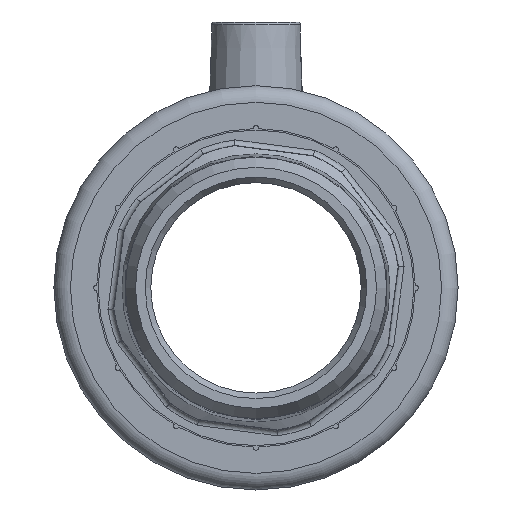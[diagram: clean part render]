
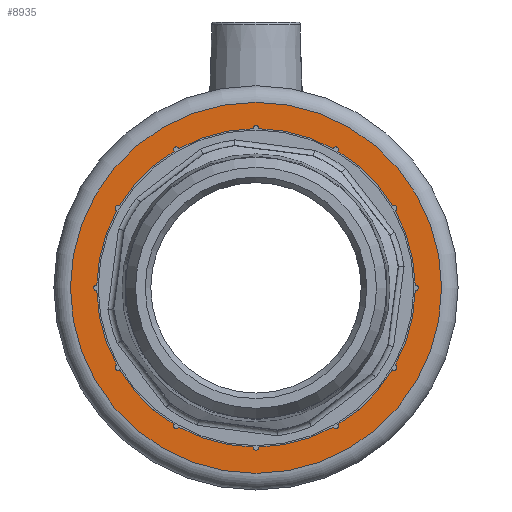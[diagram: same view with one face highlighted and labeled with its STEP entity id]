
A CAD part, left-side view. The second image highlights one B-rep face of the part: STEP entity #8935.
In plain terms, the highlighted planar face has unit normal (-1, 0, 0).
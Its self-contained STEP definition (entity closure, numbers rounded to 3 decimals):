
#917=PLANE('',#11525);
#1274=CIRCLE('',#11078,0.5);
#1277=CIRCLE('',#11085,0.5);
#1281=CIRCLE('',#11095,28.752);
#1282=CIRCLE('',#11105,0.5);
#1286=CIRCLE('',#11114,28.752);
#1288=CIRCLE('',#11123,0.5);
#1292=CIRCLE('',#11132,28.752);
#1293=CIRCLE('',#11142,0.5);
#1297=CIRCLE('',#11151,28.752);
#1299=CIRCLE('',#11160,0.5);
#1302=CIRCLE('',#11167,0.5);
#1305=CIRCLE('',#11174,0.5);
#1310=CIRCLE('',#11185,28.752);
#1313=CIRCLE('',#11196,28.752);
#1314=CIRCLE('',#11206,0.5);
#1318=CIRCLE('',#11215,28.752);
#1320=CIRCLE('',#11224,0.5);
#1324=CIRCLE('',#11233,28.752);
#1326=CIRCLE('',#11245,28.752);
#1327=CIRCLE('',#11247,0.5);
#1331=CIRCLE('',#11271,0.5);
#1335=CIRCLE('',#11280,28.752);
#1337=CIRCLE('',#11292,28.752);
#1339=CIRCLE('',#11296,28.752);
#1426=CIRCLE('',#11524,33.5);
#3023=ORIENTED_EDGE('',*,*,#4479,.F.);
#3024=ORIENTED_EDGE('',*,*,#4458,.F.);
#3025=ORIENTED_EDGE('',*,*,#4743,.F.);
#3026=ORIENTED_EDGE('',*,*,#4711,.F.);
#3027=ORIENTED_EDGE('',*,*,#4725,.F.);
#3028=ORIENTED_EDGE('',*,*,#4563,.F.);
#3029=ORIENTED_EDGE('',*,*,#4677,.F.);
#3030=ORIENTED_EDGE('',*,*,#4645,.F.);
#3031=ORIENTED_EDGE('',*,*,#4659,.F.);
#3032=ORIENTED_EDGE('',*,*,#4620,.F.);
#3033=ORIENTED_EDGE('',*,*,#4634,.F.);
#3034=ORIENTED_EDGE('',*,*,#4569,.F.);
#3035=ORIENTED_EDGE('',*,*,#4610,.F.);
#3036=ORIENTED_EDGE('',*,*,#4575,.F.);
#3037=ORIENTED_EDGE('',*,*,#4591,.F.);
#3038=ORIENTED_EDGE('',*,*,#4678,.F.);
#3039=ORIENTED_EDGE('',*,*,#4752,.F.);
#3040=ORIENTED_EDGE('',*,*,#4538,.F.);
#3041=ORIENTED_EDGE('',*,*,#4552,.F.);
#3042=ORIENTED_EDGE('',*,*,#4514,.F.);
#3043=ORIENTED_EDGE('',*,*,#4528,.F.);
#3044=ORIENTED_EDGE('',*,*,#4489,.F.);
#3045=ORIENTED_EDGE('',*,*,#4503,.F.);
#3046=ORIENTED_EDGE('',*,*,#4464,.F.);
#3047=ORIENTED_EDGE('',*,*,#5114,.T.);
#4458=EDGE_CURVE('',#5842,#5843,#1274,.T.);
#4464=EDGE_CURVE('',#5848,#5849,#1277,.T.);
#4479=EDGE_CURVE('',#5843,#5848,#1281,.T.);
#4489=EDGE_CURVE('',#5868,#5869,#1282,.T.);
#4503=EDGE_CURVE('',#5849,#5868,#1286,.T.);
#4514=EDGE_CURVE('',#5888,#5889,#1288,.T.);
#4528=EDGE_CURVE('',#5869,#5888,#1292,.T.);
#4538=EDGE_CURVE('',#5907,#5908,#1293,.T.);
#4552=EDGE_CURVE('',#5889,#5907,#1297,.T.);
#4563=EDGE_CURVE('',#5927,#5928,#1299,.T.);
#4569=EDGE_CURVE('',#5933,#5934,#1302,.T.);
#4575=EDGE_CURVE('',#5939,#5940,#1305,.T.);
#4591=EDGE_CURVE('',#5954,#5939,#1310,.T.);
#4610=EDGE_CURVE('',#5940,#5933,#1313,.T.);
#4620=EDGE_CURVE('',#5975,#5976,#1314,.T.);
#4634=EDGE_CURVE('',#5934,#5975,#1318,.T.);
#4645=EDGE_CURVE('',#5995,#5996,#1320,.T.);
#4659=EDGE_CURVE('',#5976,#5995,#1324,.T.);
#4677=EDGE_CURVE('',#5996,#5927,#1326,.T.);
#4678=EDGE_CURVE('',#6021,#5954,#1327,.T.);
#4711=EDGE_CURVE('',#6042,#6043,#1331,.T.);
#4725=EDGE_CURVE('',#5928,#6042,#1335,.T.);
#4743=EDGE_CURVE('',#6043,#5842,#1337,.T.);
#4752=EDGE_CURVE('',#5908,#6021,#1339,.T.);
#5114=EDGE_CURVE('',#6270,#6270,#1426,.T.);
#5842=VERTEX_POINT('',#14558);
#5843=VERTEX_POINT('',#14559);
#5848=VERTEX_POINT('',#14571);
#5849=VERTEX_POINT('',#14572);
#5868=VERTEX_POINT('',#14643);
#5869=VERTEX_POINT('',#14644);
#5888=VERTEX_POINT('',#14721);
#5889=VERTEX_POINT('',#14722);
#5907=VERTEX_POINT('',#14791);
#5908=VERTEX_POINT('',#14792);
#5927=VERTEX_POINT('',#14869);
#5928=VERTEX_POINT('',#14870);
#5933=VERTEX_POINT('',#14882);
#5934=VERTEX_POINT('',#14883);
#5939=VERTEX_POINT('',#14895);
#5940=VERTEX_POINT('',#14896);
#5954=VERTEX_POINT('',#14942);
#5975=VERTEX_POINT('',#15035);
#5976=VERTEX_POINT('',#15036);
#5995=VERTEX_POINT('',#15113);
#5996=VERTEX_POINT('',#15114);
#6021=VERTEX_POINT('',#15216);
#6042=VERTEX_POINT('',#15334);
#6043=VERTEX_POINT('',#15335);
#6270=VERTEX_POINT('',#18351);
#7660=EDGE_LOOP('',(#3023,#3024,#3025,#3026,#3027,#3028,#3029,#3030,#3031,
#3032,#3033,#3034,#3035,#3036,#3037,#3038,#3039,#3040,#3041,#3042,#3043,
#3044,#3045,#3046));
#7661=EDGE_LOOP('',(#3047));
#8286=FACE_BOUND('',#7660,.T.);
#8287=FACE_BOUND('',#7661,.T.);
#8935=ADVANCED_FACE('',(#8286,#8287),#917,.T.);
#11078=AXIS2_PLACEMENT_3D('',#14557,#12216,#12217);
#11085=AXIS2_PLACEMENT_3D('',#14570,#12230,#12231);
#11095=AXIS2_PLACEMENT_3D('',#14616,#12252,#12253);
#11105=AXIS2_PLACEMENT_3D('',#14642,#12274,#12275);
#11114=AXIS2_PLACEMENT_3D('',#14686,#12294,#12295);
#11123=AXIS2_PLACEMENT_3D('',#14720,#12314,#12315);
#11132=AXIS2_PLACEMENT_3D('',#14764,#12334,#12335);
#11142=AXIS2_PLACEMENT_3D('',#14790,#12356,#12357);
#11151=AXIS2_PLACEMENT_3D('',#14834,#12376,#12377);
#11160=AXIS2_PLACEMENT_3D('',#14868,#12396,#12397);
#11167=AXIS2_PLACEMENT_3D('',#14881,#12410,#12411);
#11174=AXIS2_PLACEMENT_3D('',#14894,#12424,#12425);
#11185=AXIS2_PLACEMENT_3D('',#14943,#12448,#12449);
#11196=AXIS2_PLACEMENT_3D('',#15008,#12474,#12475);
#11206=AXIS2_PLACEMENT_3D('',#15034,#12496,#12497);
#11215=AXIS2_PLACEMENT_3D('',#15078,#12516,#12517);
#11224=AXIS2_PLACEMENT_3D('',#15112,#12536,#12537);
#11233=AXIS2_PLACEMENT_3D('',#15156,#12556,#12557);
#11245=AXIS2_PLACEMENT_3D('',#15213,#12584,#12585);
#11247=AXIS2_PLACEMENT_3D('',#15215,#12588,#12589);
#11271=AXIS2_PLACEMENT_3D('',#15333,#12643,#12644);
#11280=AXIS2_PLACEMENT_3D('',#15377,#12663,#12664);
#11292=AXIS2_PLACEMENT_3D('',#15434,#12691,#12692);
#11296=AXIS2_PLACEMENT_3D('',#15467,#12701,#12702);
#11524=AXIS2_PLACEMENT_3D('',#18350,#13216,#13217);
#11525=AXIS2_PLACEMENT_3D('',#18352,#13218,#13219);
#12216=DIRECTION('',(-1.,0.,0.));
#12217=DIRECTION('',(0.,0.,1.));
#12230=DIRECTION('',(-1.,0.,0.));
#12231=DIRECTION('',(0.,0.,1.));
#12252=DIRECTION('',(-1.,0.,0.));
#12253=DIRECTION('',(0.,0.,1.));
#12274=DIRECTION('',(-1.,0.,0.));
#12275=DIRECTION('',(0.,0.,1.));
#12294=DIRECTION('',(-1.,0.,0.));
#12295=DIRECTION('',(0.,0.,1.));
#12314=DIRECTION('',(-1.,0.,0.));
#12315=DIRECTION('',(0.,0.,1.));
#12334=DIRECTION('',(-1.,0.,0.));
#12335=DIRECTION('',(0.,0.,1.));
#12356=DIRECTION('',(-1.,0.,0.));
#12357=DIRECTION('',(0.,0.,1.));
#12376=DIRECTION('',(-1.,0.,0.));
#12377=DIRECTION('',(0.,0.,1.));
#12396=DIRECTION('',(-1.,0.,0.));
#12397=DIRECTION('',(0.,0.,1.));
#12410=DIRECTION('',(-1.,0.,0.));
#12411=DIRECTION('',(0.,0.,1.));
#12424=DIRECTION('',(-1.,0.,0.));
#12425=DIRECTION('',(0.,0.,1.));
#12448=DIRECTION('',(-1.,0.,0.));
#12449=DIRECTION('',(0.,0.,1.));
#12474=DIRECTION('',(-1.,0.,0.));
#12475=DIRECTION('',(0.,0.,1.));
#12496=DIRECTION('',(-1.,0.,0.));
#12497=DIRECTION('',(0.,0.,1.));
#12516=DIRECTION('',(-1.,0.,0.));
#12517=DIRECTION('',(0.,0.,1.));
#12536=DIRECTION('',(-1.,0.,0.));
#12537=DIRECTION('',(0.,0.,1.));
#12556=DIRECTION('',(-1.,0.,0.));
#12557=DIRECTION('',(0.,0.,1.));
#12584=DIRECTION('',(-1.,0.,0.));
#12585=DIRECTION('',(0.,0.,1.));
#12588=DIRECTION('',(-1.,0.,0.));
#12589=DIRECTION('',(0.,0.,1.));
#12643=DIRECTION('',(-1.,0.,0.));
#12644=DIRECTION('',(0.,0.,1.));
#12663=DIRECTION('',(-1.,0.,0.));
#12664=DIRECTION('',(0.,0.,1.));
#12691=DIRECTION('',(-1.,0.,0.));
#12692=DIRECTION('',(0.,0.,1.));
#12701=DIRECTION('',(-1.,0.,0.));
#12702=DIRECTION('',(0.,0.,1.));
#13216=DIRECTION('',(-1.,0.,0.));
#13217=DIRECTION('',(0.,0.,1.));
#13218=DIRECTION('',(-1.,0.,0.));
#13219=DIRECTION('',(0.,0.,1.));
#14557=CARTESIAN_POINT('',(0.,14.406,-24.951));
#14558=CARTESIAN_POINT('',(0.,14.803,-24.648));
#14559=CARTESIAN_POINT('',(0.,13.944,-25.144));
#14570=CARTESIAN_POINT('',(0.,0.,-28.811));
#14571=CARTESIAN_POINT('',(0.,0.496,-28.748));
#14572=CARTESIAN_POINT('',(0.,-0.496,-28.748));
#14616=CARTESIAN_POINT('',(0.,0.,0.));
#14642=CARTESIAN_POINT('',(0.,-14.406,-24.951));
#14643=CARTESIAN_POINT('',(0.,-13.944,-25.144));
#14644=CARTESIAN_POINT('',(0.,-14.803,-24.648));
#14686=CARTESIAN_POINT('',(0.,0.,0.));
#14720=CARTESIAN_POINT('',(0.,-24.951,-14.406));
#14721=CARTESIAN_POINT('',(0.,-24.648,-14.803));
#14722=CARTESIAN_POINT('',(0.,-25.144,-13.944));
#14764=CARTESIAN_POINT('',(0.,0.,0.));
#14790=CARTESIAN_POINT('',(0.,-28.811,0.));
#14791=CARTESIAN_POINT('',(0.,-28.748,-0.496));
#14792=CARTESIAN_POINT('',(0.,-28.748,0.496));
#14834=CARTESIAN_POINT('',(0.,0.,0.));
#14868=CARTESIAN_POINT('',(0.,28.811,0.));
#14869=CARTESIAN_POINT('',(0.,28.748,0.496));
#14870=CARTESIAN_POINT('',(0.,28.748,-0.496));
#14881=CARTESIAN_POINT('',(0.,0.,28.811));
#14882=CARTESIAN_POINT('',(0.,-0.496,28.748));
#14883=CARTESIAN_POINT('',(0.,0.496,28.748));
#14894=CARTESIAN_POINT('',(0.,-14.406,24.951));
#14895=CARTESIAN_POINT('',(0.,-14.803,24.648));
#14896=CARTESIAN_POINT('',(0.,-13.944,25.144));
#14942=CARTESIAN_POINT('',(0.,-24.648,14.803));
#14943=CARTESIAN_POINT('',(0.,0.,0.));
#15008=CARTESIAN_POINT('',(0.,0.,0.));
#15034=CARTESIAN_POINT('',(0.,14.406,24.951));
#15035=CARTESIAN_POINT('',(0.,13.944,25.144));
#15036=CARTESIAN_POINT('',(0.,14.803,24.648));
#15078=CARTESIAN_POINT('',(0.,0.,0.));
#15112=CARTESIAN_POINT('',(0.,24.951,14.406));
#15113=CARTESIAN_POINT('',(0.,24.648,14.803));
#15114=CARTESIAN_POINT('',(0.,25.144,13.944));
#15156=CARTESIAN_POINT('',(0.,0.,0.));
#15213=CARTESIAN_POINT('',(0.,0.,0.));
#15215=CARTESIAN_POINT('',(0.,-24.951,14.406));
#15216=CARTESIAN_POINT('',(0.,-25.144,13.944));
#15333=CARTESIAN_POINT('',(0.,24.951,-14.406));
#15334=CARTESIAN_POINT('',(0.,25.144,-13.944));
#15335=CARTESIAN_POINT('',(0.,24.648,-14.803));
#15377=CARTESIAN_POINT('',(0.,0.,0.));
#15434=CARTESIAN_POINT('',(0.,0.,0.));
#15467=CARTESIAN_POINT('',(0.,0.,0.));
#18350=CARTESIAN_POINT('',(0.,0.,0.));
#18351=CARTESIAN_POINT('',(0.,0.,33.5));
#18352=CARTESIAN_POINT('',(0.,0.,24.4));
